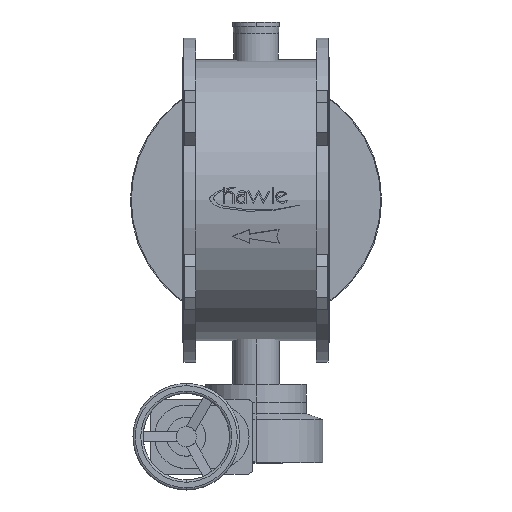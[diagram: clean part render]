
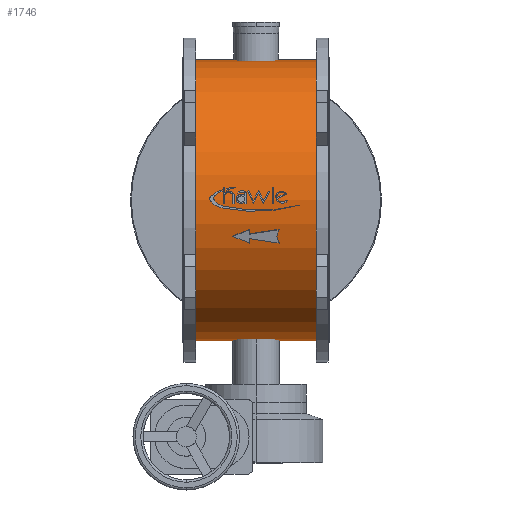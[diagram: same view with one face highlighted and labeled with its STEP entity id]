
A CAD part, top view. The second image highlights one B-rep face of the part: STEP entity #1746.
In plain terms, the highlighted cylindrical face has radius 488 mm (diameter 976 mm), a partial arc.
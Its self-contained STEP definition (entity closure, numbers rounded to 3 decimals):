
#1746=ADVANCED_FACE('',(#3458),#3459,.T.);
#3458=FACE_OUTER_BOUND('',#5417,.T.);
#3459=CYLINDRICAL_SURFACE('',#5418,488.0);
#5417=EDGE_LOOP('',(#8862,#8863,#8864,#8865));
#5418=AXIS2_PLACEMENT_3D('',#8866,#8867,#8868);
#8862=ORIENTED_EDGE('',*,*,#11664,.T.);
#8863=ORIENTED_EDGE('',*,*,#11665,.T.);
#8864=ORIENTED_EDGE('',*,*,#11666,.T.);
#8865=ORIENTED_EDGE('',*,*,#11667,.T.);
#8866=CARTESIAN_POINT('',(-463.5,0.,0.0));
#8867=DIRECTION('',(1.0,0.,0.0));
#8868=DIRECTION('',(0.,-1.0,0.0));
#11664=EDGE_CURVE('',#14101,#14102,#14103,.T.);
#11665=EDGE_CURVE('',#14102,#14104,#14105,.T.);
#11666=EDGE_CURVE('',#14104,#14106,#14107,.T.);
#11667=EDGE_CURVE('',#14106,#14101,#14108,.T.);
#14101=VERTEX_POINT('',#17095);
#14102=VERTEX_POINT('',#17096);
#14103=LINE('',#17097,#17098);
#14104=VERTEX_POINT('',#17099);
#14105=CIRCLE('',#17100,488.0);
#14106=VERTEX_POINT('',#17101);
#14107=LINE('',#17102,#17103);
#14108=CIRCLE('',#17104,488.0);
#17095=CARTESIAN_POINT('',(-463.5,-488.0,0.0));
#17096=CARTESIAN_POINT('',(-46.5,-488.0,0.0));
#17097=CARTESIAN_POINT('',(-463.5,-488.0,0.));
#17098=VECTOR('',#19508,1.0);
#17099=CARTESIAN_POINT('',(-46.5,488.0,0.));
#17100=AXIS2_PLACEMENT_3D('',#19509,#19510,#19511);
#17101=CARTESIAN_POINT('',(-463.5,488.0,0.));
#17102=CARTESIAN_POINT('',(-463.5,488.0,0.));
#17103=VECTOR('',#19512,1.0);
#17104=AXIS2_PLACEMENT_3D('',#19513,#19514,#19515);
#19508=DIRECTION('',(1.0,0.,0.0));
#19509=CARTESIAN_POINT('',(-46.5,0.,0.0));
#19510=DIRECTION('',(-1.0,0.,0.0));
#19511=DIRECTION('',(0.,-1.0,0.0));
#19512=DIRECTION('',(-1.0,0.,-0.0));
#19513=CARTESIAN_POINT('',(-463.5,0.,0.0));
#19514=DIRECTION('',(1.0,0.,0.0));
#19515=DIRECTION('',(0.,-1.0,0.0));
